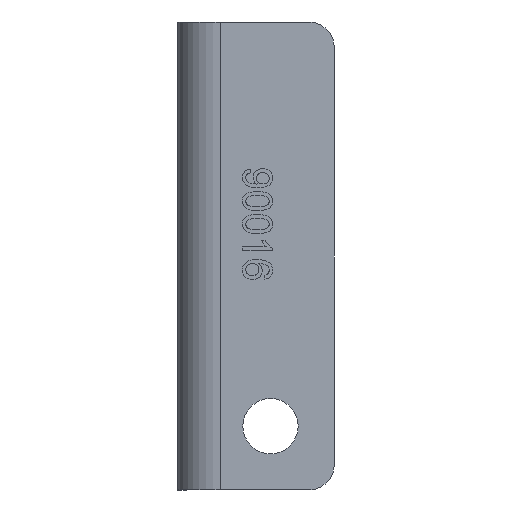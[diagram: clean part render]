
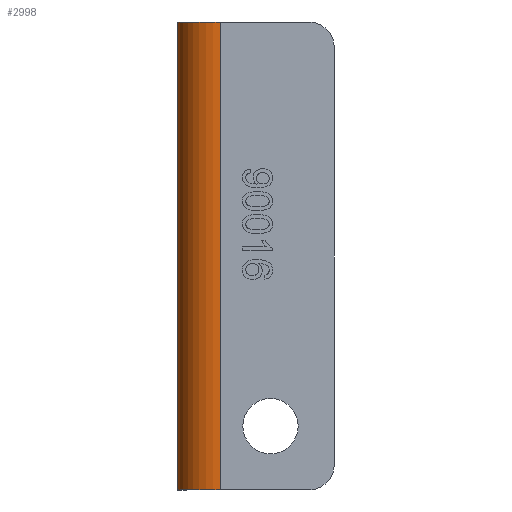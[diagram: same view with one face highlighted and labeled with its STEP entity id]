
A CAD part, left-side view. The second image highlights one B-rep face of the part: STEP entity #2998.
In plain terms, the highlighted cylindrical face has radius 5 mm (diameter 10 mm), a partial arc.
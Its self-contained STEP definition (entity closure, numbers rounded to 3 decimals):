
#194 = DIRECTION ( 'NONE',  ( 0., 0., 1. ) ) ;
#226 = CARTESIAN_POINT ( 'NONE',  ( -16., 0., 27.5 ) ) ;
#246 = ORIENTED_EDGE ( 'NONE', *, *, #950, .F. ) ;
#595 = EDGE_CURVE ( 'NONE', #2111, #3138, #3624, .T. ) ;
#598 = CARTESIAN_POINT ( 'NONE',  ( -16., 0., -27.5 ) ) ;
#672 = ORIENTED_EDGE ( 'NONE', *, *, #4405, .F. ) ;
#950 = EDGE_CURVE ( 'NONE', #5253, #1688, #1869, .T. ) ;
#1072 = DIRECTION ( 'NONE',  ( -1., 0., 0. ) ) ;
#1408 = CARTESIAN_POINT ( 'NONE',  ( -21., -5., 27.5 ) ) ;
#1648 = DIRECTION ( 'NONE',  ( 0., 0., -1. ) ) ;
#1665 = CARTESIAN_POINT ( 'NONE',  ( -16., -5., -27.5 ) ) ;
#1666 = DIRECTION ( 'NONE',  ( -1., 0., 0. ) ) ;
#1688 = VERTEX_POINT ( 'NONE', #226 ) ;
#1869 = LINE ( 'NONE', #598, #3046 ) ;
#1897 = EDGE_LOOP ( 'NONE', ( #246, #2194, #5386, #672 ) ) ;
#2046 = CYLINDRICAL_SURFACE ( 'NONE', #2097, 5. ) ;
#2063 = DIRECTION ( 'NONE',  ( 0., 0., 1. ) ) ;
#2097 = AXIS2_PLACEMENT_3D ( 'NONE', #1665, #1648, #1666 ) ;
#2111 = VERTEX_POINT ( 'NONE', #3162 ) ;
#2194 = ORIENTED_EDGE ( 'NONE', *, *, #5206, .F. ) ;
#2259 = AXIS2_PLACEMENT_3D ( 'NONE', #4894, #4897, #1072 ) ;
#2311 = AXIS2_PLACEMENT_3D ( 'NONE', #3300, #3296, #3310 ) ;
#2585 = CARTESIAN_POINT ( 'NONE',  ( -21., -5., 0. ) ) ;
#2836 = CIRCLE ( 'NONE', #2311, 5. ) ;
#2998 = ADVANCED_FACE ( 'NONE', ( #3201 ), #2046, .T. ) ;
#3046 = VECTOR ( 'NONE', #194, 1000. ) ;
#3138 = VERTEX_POINT ( 'NONE', #1408 ) ;
#3162 = CARTESIAN_POINT ( 'NONE',  ( -21., -5., -27.5 ) ) ;
#3201 = FACE_OUTER_BOUND ( 'NONE', #1897, .T. ) ;
#3296 = DIRECTION ( 'NONE',  ( 0., 0., -1. ) ) ;
#3300 = CARTESIAN_POINT ( 'NONE',  ( -16., -5., -27.5 ) ) ;
#3310 = DIRECTION ( 'NONE',  ( -1., 0., 0. ) ) ;
#3322 = CARTESIAN_POINT ( 'NONE',  ( -16., 0., -27.5 ) ) ;
#3624 = LINE ( 'NONE', #2585, #3751 ) ;
#3751 = VECTOR ( 'NONE', #2063, 1000. ) ;
#4371 = CIRCLE ( 'NONE', #2259, 5. ) ;
#4405 = EDGE_CURVE ( 'NONE', #1688, #3138, #4371, .T. ) ;
#4894 = CARTESIAN_POINT ( 'NONE',  ( -16., -5., 27.5 ) ) ;
#4897 = DIRECTION ( 'NONE',  ( 0., 0., 1. ) ) ;
#5206 = EDGE_CURVE ( 'NONE', #2111, #5253, #2836, .T. ) ;
#5253 = VERTEX_POINT ( 'NONE', #3322 ) ;
#5386 = ORIENTED_EDGE ( 'NONE', *, *, #595, .T. ) ;
